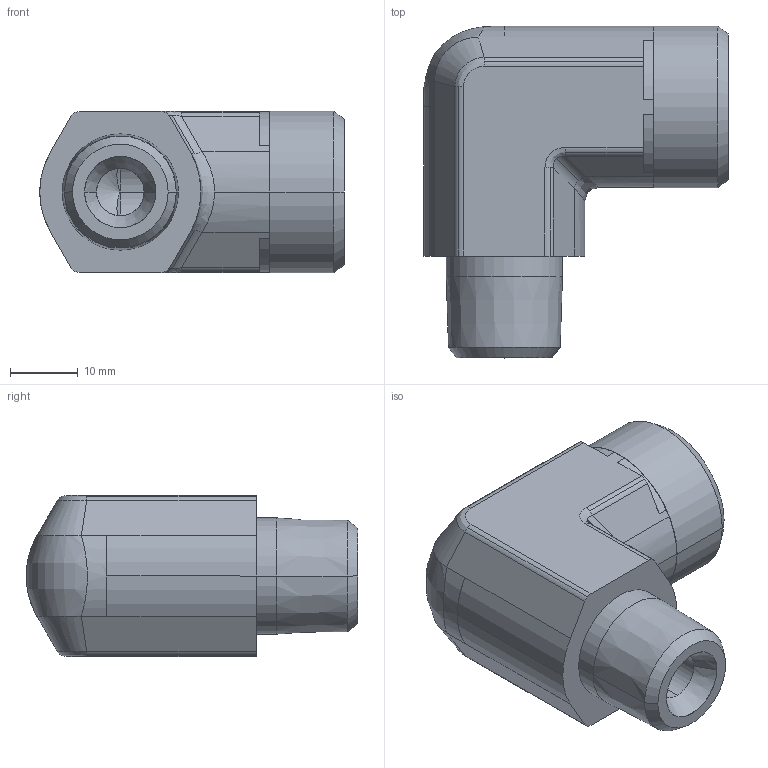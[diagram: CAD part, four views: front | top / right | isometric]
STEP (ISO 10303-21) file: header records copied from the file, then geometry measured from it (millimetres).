
FILE_DESCRIPTION((''),'2;1');
FILE_NAME('102037.stp','2007-10-30T16:34:49',(''),(''),'AutoCAD STEP 2000i','AutoCAD 2000i',', , ');
FILE_SCHEMA(('CONFIG_CONTROL_DESIGN'));
Length unit declared in the file: millimetre
Products named in the file (2): 102037.0; 3090#0
Assembly tree (1 placements, depth 2):
  102037.0
    3090#0
Bounding box: 44.88 x 48.92 x 23.85 mm (x, y, z)
Volume: 22537.3 mm3; surface area: 7791.8 mm2
Topology: 1 solids, 1 shells, 97 faces, 238 edges, 145 vertices
Faces by surface type: cylinder 42, plane 26, cone 15, bspline 14
Entity records: 3798 total; most frequent: CARTESIAN_POINT 1392, DIRECTION 505, ORIENTED_EDGE 476, EDGE_CURVE 238, AXIS2_PLACEMENT_3D 202, VERTEX_POINT 145, CIRCLE 107, VECTOR 101
